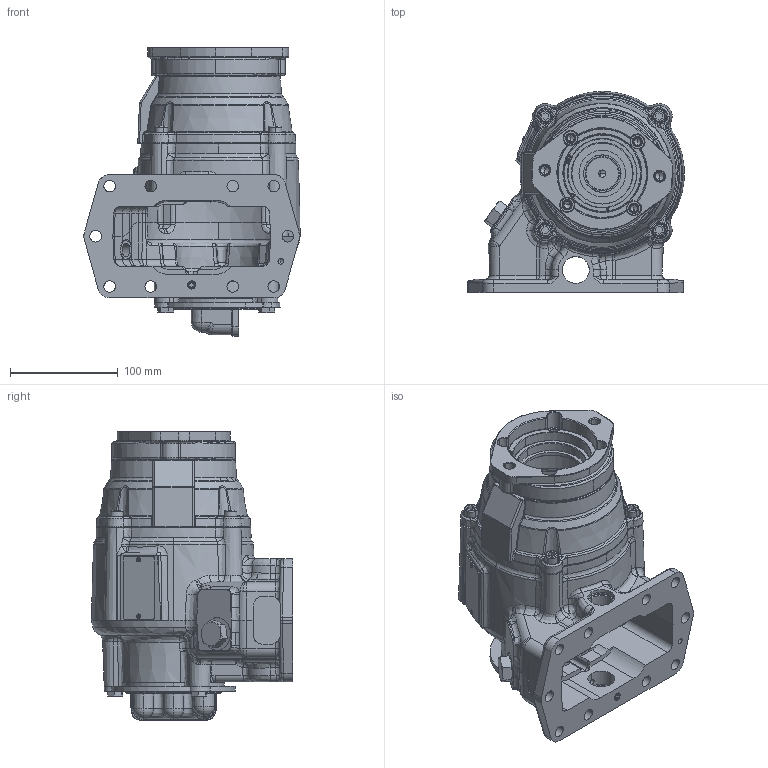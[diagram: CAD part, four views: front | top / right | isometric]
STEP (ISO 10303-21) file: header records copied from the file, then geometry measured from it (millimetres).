
FILE_DESCRIPTION (( 'STEP AP203' ), '1' );
FILE_NAME ('A30-A10XX-MX1TAPX.STEP', '2023-03-30T19:02:22', ( '' ), ( '' ), 'SwSTEP 2.0', 'SolidWorks 2021', '' );
FILE_SCHEMA (( 'CONFIG_CONTROL_DESIGN' ));
Length unit declared in the file: inch
Products named in the file (8): 15T64348_DIECAST DESIGN; 19T36588_19T36588; 01T43462_1Arrangement; A30-A10XX-MX1TAPX; RemoteMountRearCover; 14T65653; 19T3314_RearCover_HexHeadCapScrew_19T33134; 15T65391DB3
Assembly tree (12 placements, depth 2):
  A30-A10XX-MX1TAPX
    01T43462_1Arrangement
    14T65653
    15T65391DB3
    19T36588_19T36588  x4
    RemoteMountRearCover
    15T64348_DIECAST DESIGN
    19T3314_RearCover_HexHeadCapScrew_19T33134  x3
Bounding box: 200.33 x 186.36 x 267.67 mm (x, y, z)
Volume: 619107.6 mm3; surface area: 404868.4 mm2
Topology: 11 solids, 24 shells, 2586 faces, 6354 edges, 3846 vertices
Faces by surface type: bspline 749, plane 696, cylinder 583, cone 338, torus 208, sphere 12
Entity records: 116634 total; most frequent: CARTESIAN_POINT 62336, ORIENTED_EDGE 12012, DIRECTION 9873, EDGE_CURVE 6015, AXIS2_PLACEMENT_3D 3817, VERTEX_POINT 3703, EDGE_LOOP 2693, ADVANCED_FACE 2479
